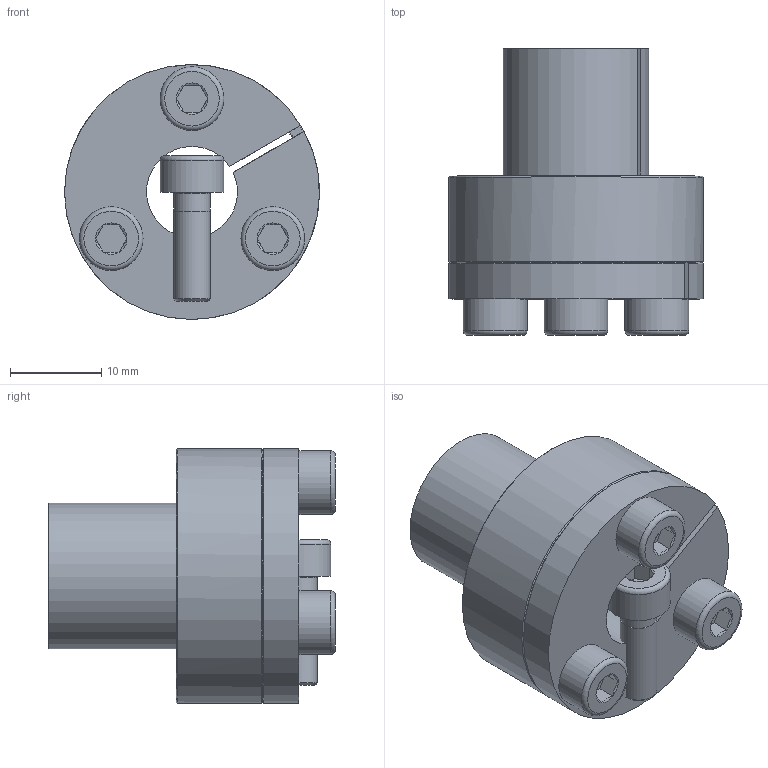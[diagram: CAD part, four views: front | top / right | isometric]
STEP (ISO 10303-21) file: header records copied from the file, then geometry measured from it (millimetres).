
FILE_DESCRIPTION( ( 'Unknown' ), '1' );
FILE_NAME( 'C:/Dokumente und Einstellungen/Sven/Desktop/homepage/cad - homepage/KBS80/KBS 80 - 10 x 16.stp', 'Unknown', ( 'Unknown' ), ( 'Unknown' ), 'XStep 1.0', 'Unknown', ' ' );
FILE_SCHEMA( ( 'automotive_design' ) );
Length unit declared in the file: millimetre
Products named in the file (5): Assem1; KBS 80 - 10 x 16; ISO EN DIN 4762 M4x12; ISO EN DIN 4762 M4x12-oa0; ISO EN DIN 4762 M4x12-oa1
Bounding box: 28 x 31.5 x 28 mm (x, y, z)
Volume: 18383 mm3; surface area: 11083.8 mm2
Topology: 8 solids, 8 shells, 196 faces, 384 edges, 226 vertices
Faces by surface type: plane 88, cone 56, cylinder 40, torus 12
Full cylindrical faces by diameter (mm): 3.5 x6, 4 x18, 7 x6, 28 x2
Entity records: 2648 total; most frequent: CARTESIAN_POINT 502, DIRECTION 412, ORIENTED_EDGE 312, AXIS2_PLACEMENT_3D 179, EDGE_CURVE 156, EDGE_LOOP 145, FACE_OUTER_BOUND 120, VERTEX_POINT 105
